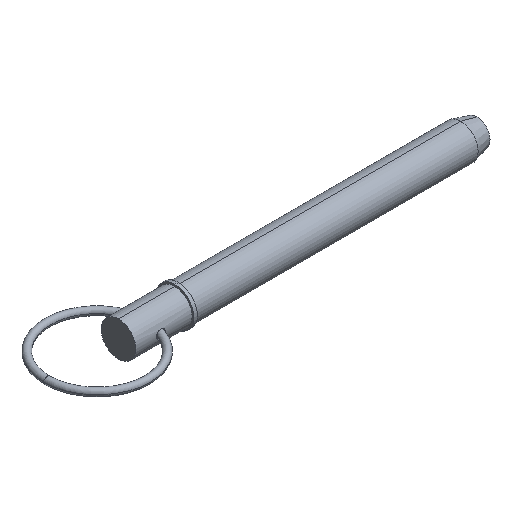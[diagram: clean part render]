
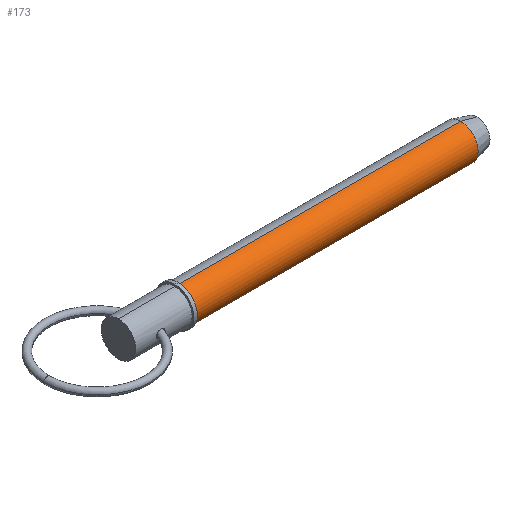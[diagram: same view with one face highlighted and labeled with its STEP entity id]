
A CAD part, isometric view. The second image highlights one B-rep face of the part: STEP entity #173.
In plain terms, the highlighted cylindrical face has radius 11.115 mm (diameter 22.23 mm), a partial arc.
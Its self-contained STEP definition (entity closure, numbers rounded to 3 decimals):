
#28 = AXIS2_PLACEMENT_3D ( 'NONE', #314, #403, #135 ) ;
#33 = CARTESIAN_POINT ( 'NONE',  ( 0., 0., 11.115 ) ) ;
#55 = DIRECTION ( 'NONE',  ( 1., 0., 0. ) ) ;
#126 = CARTESIAN_POINT ( 'NONE',  ( 0., 0., -11.115 ) ) ;
#132 = DIRECTION ( 'NONE',  ( 1., 0., 0. ) ) ;
#135 = DIRECTION ( 'NONE',  ( 0., 0., -1. ) ) ;
#165 = CIRCLE ( 'NONE', #918, 11.115 ) ;
#173 = ADVANCED_FACE ( 'NONE', ( #958 ), #943, .T. ) ;
#232 = ORIENTED_EDGE ( 'NONE', *, *, #1026, .T. ) ;
#272 = AXIS2_PLACEMENT_3D ( 'NONE', #866, #954, #447 ) ;
#291 = LINE ( 'NONE', #33, #472 ) ;
#293 = VERTEX_POINT ( 'NONE', #775 ) ;
#314 = CARTESIAN_POINT ( 'NONE',  ( 38.1, 0., 0. ) ) ;
#321 = EDGE_CURVE ( 'NONE', #293, #348, #291, .T. ) ;
#326 = CARTESIAN_POINT ( 'NONE',  ( 218.23, 0., -11.115 ) ) ;
#344 = ORIENTED_EDGE ( 'NONE', *, *, #740, .T. ) ;
#348 = VERTEX_POINT ( 'NONE', #872 ) ;
#403 = DIRECTION ( 'NONE',  ( 1., 0., 0. ) ) ;
#447 = DIRECTION ( 'NONE',  ( 0., 0., -1. ) ) ;
#449 = ORIENTED_EDGE ( 'NONE', *, *, #697, .F. ) ;
#472 = VECTOR ( 'NONE', #533, 1000. ) ;
#473 = VERTEX_POINT ( 'NONE', #911 ) ;
#533 = DIRECTION ( 'NONE',  ( 1., 0., 0. ) ) ;
#624 = EDGE_LOOP ( 'NONE', ( #988, #232, #344, #449 ) ) ;
#645 = CARTESIAN_POINT ( 'NONE',  ( 218.23, 0., 0. ) ) ;
#697 = EDGE_CURVE ( 'NONE', #348, #1027, #165, .T. ) ;
#715 = VECTOR ( 'NONE', #55, 1000. ) ;
#740 = EDGE_CURVE ( 'NONE', #473, #1027, #876, .T. ) ;
#775 = CARTESIAN_POINT ( 'NONE',  ( 38.1, 0., 11.115 ) ) ;
#866 = CARTESIAN_POINT ( 'NONE',  ( 0., 0., 0. ) ) ;
#872 = CARTESIAN_POINT ( 'NONE',  ( 218.23, 0., 11.115 ) ) ;
#876 = LINE ( 'NONE', #126, #715 ) ;
#911 = CARTESIAN_POINT ( 'NONE',  ( 38.1, 0., -11.115 ) ) ;
#918 = AXIS2_PLACEMENT_3D ( 'NONE', #645, #132, #1059 ) ;
#919 = CIRCLE ( 'NONE', #28, 11.115 ) ;
#943 = CYLINDRICAL_SURFACE ( 'NONE', #272, 11.115 ) ;
#954 = DIRECTION ( 'NONE',  ( 1., 0., 0. ) ) ;
#958 = FACE_OUTER_BOUND ( 'NONE', #624, .T. ) ;
#988 = ORIENTED_EDGE ( 'NONE', *, *, #321, .F. ) ;
#1026 = EDGE_CURVE ( 'NONE', #293, #473, #919, .T. ) ;
#1027 = VERTEX_POINT ( 'NONE', #326 ) ;
#1059 = DIRECTION ( 'NONE',  ( 0., 0., -1. ) ) ;
